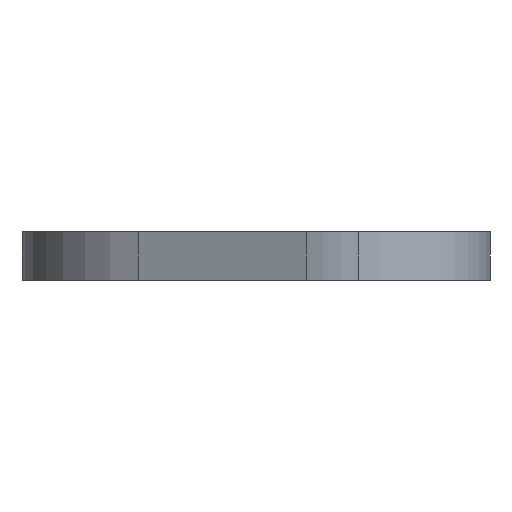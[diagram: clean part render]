
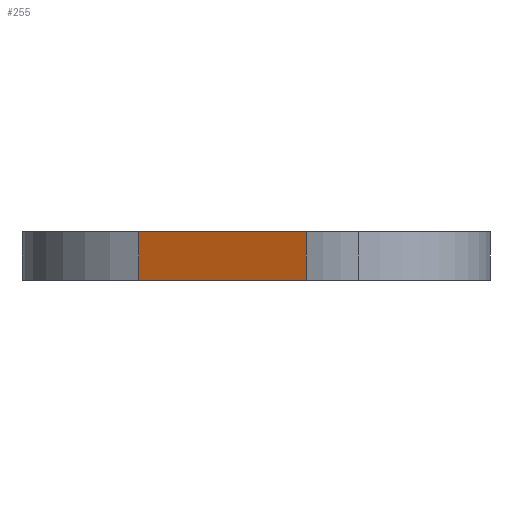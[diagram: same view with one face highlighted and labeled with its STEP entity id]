
A CAD part, left-side view. The second image highlights one B-rep face of the part: STEP entity #255.
In plain terms, the highlighted planar face has unit normal (-0.92, 0.393, 0).
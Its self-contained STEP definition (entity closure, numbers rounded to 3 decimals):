
#41 = EDGE_CURVE ( 'NONE', #1083, #453, #923, .T. ) ;
#94 = PLANE ( 'NONE',  #358 ) ;
#117 = EDGE_LOOP ( 'NONE', ( #551, #558, #573, #575 ) ) ;
#142 = VECTOR ( 'NONE', #200, 1000. ) ;
#200 = DIRECTION ( 'NONE',  ( -0.393, -0.92, 0. ) ) ;
#214 = CARTESIAN_POINT ( 'NONE',  ( -310.375, -24.286, 10. ) ) ;
#228 = CARTESIAN_POINT ( 'NONE',  ( -325.289, -59.196, 10. ) ) ;
#232 = DIRECTION ( 'NONE',  ( 0., 0., -1. ) ) ;
#255 = ADVANCED_FACE ( 'NONE', ( #833 ), #94, .F. ) ;
#256 = DIRECTION ( 'NONE',  ( 0.92, -0.393, 0. ) ) ;
#260 = EDGE_CURVE ( 'NONE', #1083, #494, #753, .T. ) ;
#314 = DIRECTION ( 'NONE',  ( 0.393, 0.92, 0. ) ) ;
#336 = DIRECTION ( 'NONE',  ( 0., 0., -1. ) ) ;
#352 = EDGE_CURVE ( 'NONE', #453, #815, #974, .T. ) ;
#358 = AXIS2_PLACEMENT_3D ( 'NONE', #214, #256, #314 ) ;
#432 = CARTESIAN_POINT ( 'NONE',  ( -325.289, -59.196, 0. ) ) ;
#453 = VERTEX_POINT ( 'NONE', #517 ) ;
#494 = VERTEX_POINT ( 'NONE', #718 ) ;
#517 = CARTESIAN_POINT ( 'NONE',  ( -325.289, -59.196, 10. ) ) ;
#543 = EDGE_CURVE ( 'NONE', #494, #815, #921, .T. ) ;
#551 = ORIENTED_EDGE ( 'NONE', *, *, #543, .T. ) ;
#558 = ORIENTED_EDGE ( 'NONE', *, *, #352, .F. ) ;
#573 = ORIENTED_EDGE ( 'NONE', *, *, #41, .F. ) ;
#575 = ORIENTED_EDGE ( 'NONE', *, *, #260, .T. ) ;
#615 = VECTOR ( 'NONE', #232, 1000. ) ;
#689 = VECTOR ( 'NONE', #336, 1000. ) ;
#718 = CARTESIAN_POINT ( 'NONE',  ( -310.375, -24.286, 0. ) ) ;
#753 = LINE ( 'NONE', #1038, #689 ) ;
#766 = CARTESIAN_POINT ( 'NONE',  ( -310.375, -24.286, 10. ) ) ;
#815 = VERTEX_POINT ( 'NONE', #432 ) ;
#830 = DIRECTION ( 'NONE',  ( -0.393, -0.92, 0. ) ) ;
#833 = FACE_OUTER_BOUND ( 'NONE', #117, .T. ) ;
#835 = CARTESIAN_POINT ( 'NONE',  ( -310.375, -24.286, 0. ) ) ;
#856 = VECTOR ( 'NONE', #830, 1000. ) ;
#921 = LINE ( 'NONE', #835, #856 ) ;
#923 = LINE ( 'NONE', #766, #142 ) ;
#974 = LINE ( 'NONE', #228, #615 ) ;
#1038 = CARTESIAN_POINT ( 'NONE',  ( -310.375, -24.286, 10. ) ) ;
#1083 = VERTEX_POINT ( 'NONE', #1085 ) ;
#1085 = CARTESIAN_POINT ( 'NONE',  ( -310.375, -24.286, 10. ) ) ;
